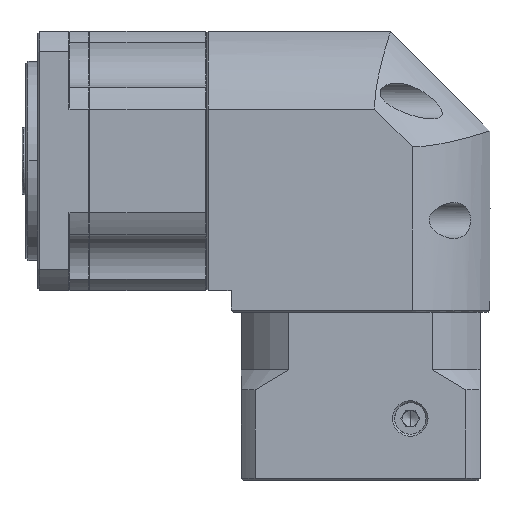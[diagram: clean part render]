
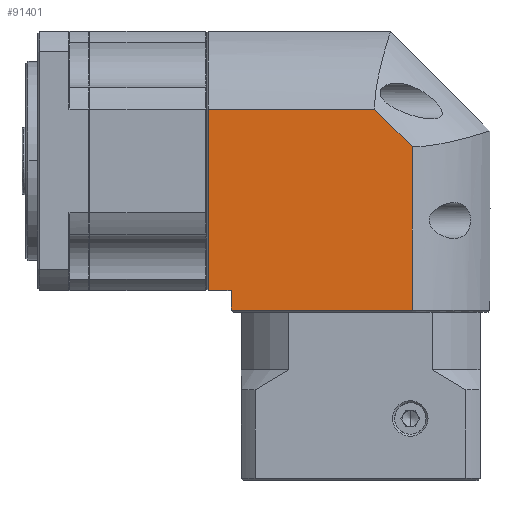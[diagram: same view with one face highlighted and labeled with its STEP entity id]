
A CAD part, top view. The second image highlights one B-rep face of the part: STEP entity #91401.
In plain terms, the highlighted planar face has unit normal (0, 0, 1).
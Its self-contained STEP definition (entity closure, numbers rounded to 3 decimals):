
#1003 = CARTESIAN_POINT ( 'NONE',  ( 34.241, 4.844, -84.303 ) ) ;
#3388 = LINE ( 'NONE', #138886, #93036 ) ;
#5627 = PLANE ( 'NONE',  #67292 ) ;
#6129 = DIRECTION ( 'NONE',  ( -0.707, 0.707, 0. ) ) ;
#10388 = DIRECTION ( 'NONE',  ( 0., -1., 0. ) ) ;
#17832 = CARTESIAN_POINT ( 'NONE',  ( 5.234, 4.844, -84.303 ) ) ;
#19664 = EDGE_CURVE ( 'NONE', #126032, #154328, #93990, .T. ) ;
#22596 = VERTEX_POINT ( 'NONE', #84561 ) ;
#23039 = ORIENTED_EDGE ( 'NONE', *, *, #105874, .T. ) ;
#23789 = VECTOR ( 'NONE', #117190, 1000. ) ;
#29336 = CARTESIAN_POINT ( 'NONE',  ( -36.459, -40.646, -84.303 ) ) ;
#31081 = CARTESIAN_POINT ( 'NONE',  ( -30.759, -40.646, -84.303 ) ) ;
#31847 = CARTESIAN_POINT ( 'NONE',  ( -40.759, -45.646, -84.303 ) ) ;
#37426 = CARTESIAN_POINT ( 'NONE',  ( -30.759, -45.646, -84.303 ) ) ;
#37901 = VECTOR ( 'NONE', #10388, 1000. ) ;
#44962 = VERTEX_POINT ( 'NONE', #46540 ) ;
#46540 = CARTESIAN_POINT ( 'NONE',  ( 14.731, -45.646, -84.303 ) ) ;
#47095 = VECTOR ( 'NONE', #130751, 1000. ) ;
#47858 = ORIENTED_EDGE ( 'NONE', *, *, #142007, .T. ) ;
#48180 = ORIENTED_EDGE ( 'NONE', *, *, #90147, .T. ) ;
#49360 = VERTEX_POINT ( 'NONE', #37426 ) ;
#50930 = LINE ( 'NONE', #57721, #47095 ) ;
#55125 = CARTESIAN_POINT ( 'NONE',  ( -40.759, 24.354, -84.303 ) ) ;
#57207 = VERTEX_POINT ( 'NONE', #134868 ) ;
#57231 = EDGE_CURVE ( 'NONE', #154328, #22596, #61801, .T. ) ;
#57721 = CARTESIAN_POINT ( 'NONE',  ( 14.731, 24.354, -84.303 ) ) ;
#59303 = ORIENTED_EDGE ( 'NONE', *, *, #142227, .T. ) ;
#61549 = VECTOR ( 'NONE', #6129, 1000. ) ;
#61801 = LINE ( 'NONE', #1003, #90439 ) ;
#64498 = VECTOR ( 'NONE', #102276, 1000. ) ;
#66305 = CARTESIAN_POINT ( 'NONE',  ( -356.071, 366.149, -84.303 ) ) ;
#67292 = AXIS2_PLACEMENT_3D ( 'NONE', #55125, #140457, #67394 ) ;
#67394 = DIRECTION ( 'NONE',  ( -1., 0., 0. ) ) ;
#69218 = EDGE_LOOP ( 'NONE', ( #59303, #150167, #101281, #102309, #48180, #47858, #23039 ) ) ;
#81730 = LINE ( 'NONE', #29336, #37901 ) ;
#84561 = CARTESIAN_POINT ( 'NONE',  ( -36.459, 4.844, -84.303 ) ) ;
#90147 = EDGE_CURVE ( 'NONE', #57207, #100749, #96971, .T. ) ;
#90439 = VECTOR ( 'NONE', #98585, 1000. ) ;
#91401 = ADVANCED_FACE ( 'NONE', ( #117202 ), #5627, .F. ) ;
#93036 = VECTOR ( 'NONE', #127075, 1000. ) ;
#93990 = LINE ( 'NONE', #66305, #61549 ) ;
#94461 = CARTESIAN_POINT ( 'NONE',  ( 14.731, -4.653, -84.303 ) ) ;
#96971 = LINE ( 'NONE', #101784, #64498 ) ;
#98585 = DIRECTION ( 'NONE',  ( -1., 0., 0. ) ) ;
#100749 = VERTEX_POINT ( 'NONE', #31081 ) ;
#101281 = ORIENTED_EDGE ( 'NONE', *, *, #57231, .T. ) ;
#101784 = CARTESIAN_POINT ( 'NONE',  ( -40.759, -40.646, -84.303 ) ) ;
#102276 = DIRECTION ( 'NONE',  ( 1., 0., 0. ) ) ;
#102309 = ORIENTED_EDGE ( 'NONE', *, *, #118190, .T. ) ;
#105874 = EDGE_CURVE ( 'NONE', #49360, #44962, #138309, .T. ) ;
#117190 = DIRECTION ( 'NONE',  ( 1., 0., 0. ) ) ;
#117202 = FACE_OUTER_BOUND ( 'NONE', #69218, .T. ) ;
#118190 = EDGE_CURVE ( 'NONE', #22596, #57207, #81730, .T. ) ;
#126032 = VERTEX_POINT ( 'NONE', #94461 ) ;
#127075 = DIRECTION ( 'NONE',  ( 0., -1., 0. ) ) ;
#130751 = DIRECTION ( 'NONE',  ( 0., 1., 0. ) ) ;
#134868 = CARTESIAN_POINT ( 'NONE',  ( -36.459, -40.646, -84.303 ) ) ;
#138309 = LINE ( 'NONE', #31847, #23789 ) ;
#138886 = CARTESIAN_POINT ( 'NONE',  ( -30.759, 24.354, -84.303 ) ) ;
#140457 = DIRECTION ( 'NONE',  ( 0., 0., -1. ) ) ;
#142007 = EDGE_CURVE ( 'NONE', #100749, #49360, #3388, .T. ) ;
#142227 = EDGE_CURVE ( 'NONE', #44962, #126032, #50930, .T. ) ;
#150167 = ORIENTED_EDGE ( 'NONE', *, *, #19664, .T. ) ;
#154328 = VERTEX_POINT ( 'NONE', #17832 ) ;
